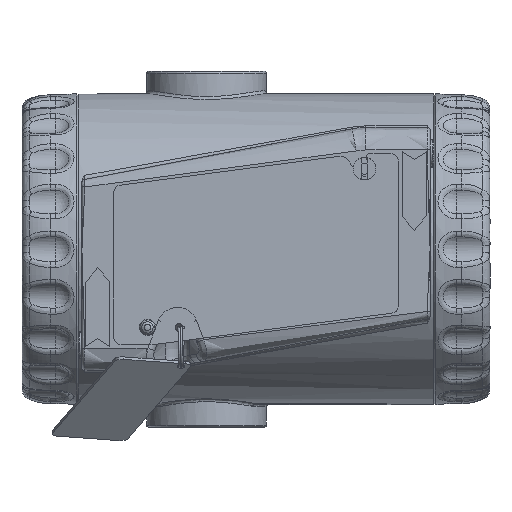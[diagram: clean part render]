
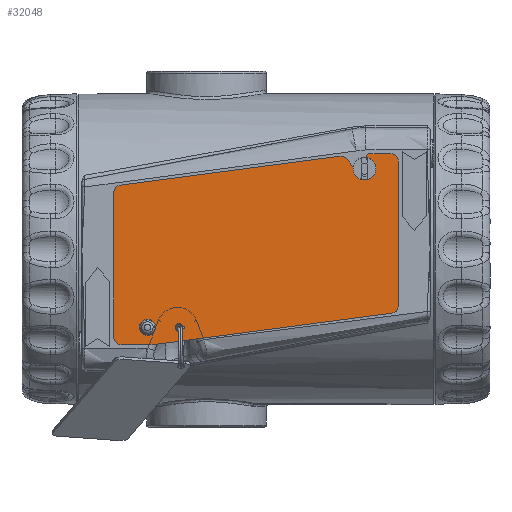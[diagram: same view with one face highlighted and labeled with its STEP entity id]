
A CAD part, left-side view. The second image highlights one B-rep face of the part: STEP entity #32048.
In plain terms, the highlighted planar face has unit normal (-1, 0, 0) as drawn and (0, 0, 1) by its records, which use the part's own axes.
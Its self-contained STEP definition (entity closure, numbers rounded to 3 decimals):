
#2493=FACE_BOUND('',#10472,.T.);
#2494=FACE_BOUND('',#10473,.T.);
#3020=PLANE('',#36159);
#4502=LINE('',#74795,#6025);
#4506=LINE('',#74807,#6029);
#4510=LINE('',#74819,#6033);
#4514=LINE('',#74831,#6037);
#4518=LINE('',#74843,#6041);
#4521=LINE('',#74849,#6044);
#4525=LINE('',#74861,#6048);
#4529=LINE('',#74872,#6052);
#6025=VECTOR('',#44805,10.);
#6029=VECTOR('',#44817,10.);
#6033=VECTOR('',#44829,10.);
#6037=VECTOR('',#44841,10.);
#6041=VECTOR('',#44853,10.);
#6044=VECTOR('',#44858,10.);
#6048=VECTOR('',#44870,10.);
#6052=VECTOR('',#44882,10.);
#8429=FACE_OUTER_BOUND('',#10471,.T.);
#10471=EDGE_LOOP('',(#29675,#29676,#29677,#29678,#29679,#29680,#29681,#29682,
#29683,#29684,#29685,#29686,#29687,#29688,#29689));
#10472=EDGE_LOOP('',(#29690));
#10473=EDGE_LOOP('',(#29691));
#12536=CIRCLE('',#36125,1.35);
#12538=CIRCLE('',#36128,1.);
#12539=CIRCLE('',#36130,2.);
#12541=CIRCLE('',#36134,2.);
#12543=CIRCLE('',#36138,1.);
#12545=CIRCLE('',#36142,2.);
#12547=CIRCLE('',#36146,2.);
#12549=CIRCLE('',#36151,2.);
#12551=CIRCLE('',#36155,2.);
#15451=VERTEX_POINT('',#74775);
#15453=VERTEX_POINT('',#74781);
#15454=VERTEX_POINT('',#74785);
#15455=VERTEX_POINT('',#74786);
#15458=VERTEX_POINT('',#74794);
#15460=VERTEX_POINT('',#74800);
#15462=VERTEX_POINT('',#74806);
#15464=VERTEX_POINT('',#74812);
#15466=VERTEX_POINT('',#74818);
#15468=VERTEX_POINT('',#74824);
#15470=VERTEX_POINT('',#74830);
#15472=VERTEX_POINT('',#74836);
#15474=VERTEX_POINT('',#74842);
#15476=VERTEX_POINT('',#74848);
#15478=VERTEX_POINT('',#74854);
#15480=VERTEX_POINT('',#74860);
#15482=VERTEX_POINT('',#74866);
#20183=EDGE_CURVE('',#15451,#15451,#12536,.T.);
#20186=EDGE_CURVE('',#15453,#15453,#12538,.T.);
#20187=EDGE_CURVE('',#15454,#15455,#12539,.T.);
#20191=EDGE_CURVE('',#15455,#15458,#4502,.T.);
#20194=EDGE_CURVE('',#15458,#15460,#12541,.T.);
#20197=EDGE_CURVE('',#15460,#15462,#4506,.T.);
#20200=EDGE_CURVE('',#15462,#15464,#12543,.T.);
#20203=EDGE_CURVE('',#15464,#15466,#4510,.T.);
#20206=EDGE_CURVE('',#15466,#15468,#12545,.T.);
#20209=EDGE_CURVE('',#15468,#15470,#4514,.T.);
#20212=EDGE_CURVE('',#15470,#15472,#12547,.T.);
#20215=EDGE_CURVE('',#15472,#15474,#4518,.T.);
#20218=EDGE_CURVE('',#15474,#15476,#4521,.T.);
#20221=EDGE_CURVE('',#15476,#15478,#12549,.T.);
#20224=EDGE_CURVE('',#15478,#15480,#4525,.T.);
#20227=EDGE_CURVE('',#15480,#15482,#12551,.T.);
#20230=EDGE_CURVE('',#15482,#15454,#4529,.T.);
#29675=ORIENTED_EDGE('',*,*,#20187,.F.);
#29676=ORIENTED_EDGE('',*,*,#20230,.F.);
#29677=ORIENTED_EDGE('',*,*,#20227,.F.);
#29678=ORIENTED_EDGE('',*,*,#20224,.F.);
#29679=ORIENTED_EDGE('',*,*,#20221,.F.);
#29680=ORIENTED_EDGE('',*,*,#20218,.F.);
#29681=ORIENTED_EDGE('',*,*,#20215,.F.);
#29682=ORIENTED_EDGE('',*,*,#20212,.F.);
#29683=ORIENTED_EDGE('',*,*,#20209,.F.);
#29684=ORIENTED_EDGE('',*,*,#20206,.F.);
#29685=ORIENTED_EDGE('',*,*,#20203,.F.);
#29686=ORIENTED_EDGE('',*,*,#20200,.F.);
#29687=ORIENTED_EDGE('',*,*,#20197,.F.);
#29688=ORIENTED_EDGE('',*,*,#20194,.F.);
#29689=ORIENTED_EDGE('',*,*,#20191,.F.);
#29690=ORIENTED_EDGE('',*,*,#20183,.T.);
#29691=ORIENTED_EDGE('',*,*,#20186,.T.);
#32048=ADVANCED_FACE('',(#8429,#2493,#2494),#3020,.T.);
#36125=AXIS2_PLACEMENT_3D('',#74777,#44786,#44787);
#36128=AXIS2_PLACEMENT_3D('',#74783,#44793,#44794);
#36130=AXIS2_PLACEMENT_3D('',#74787,#44797,#44798);
#36134=AXIS2_PLACEMENT_3D('',#74801,#44810,#44811);
#36138=AXIS2_PLACEMENT_3D('',#74813,#44822,#44823);
#36142=AXIS2_PLACEMENT_3D('',#74825,#44834,#44835);
#36146=AXIS2_PLACEMENT_3D('',#74837,#44846,#44847);
#36151=AXIS2_PLACEMENT_3D('',#74855,#44863,#44864);
#36155=AXIS2_PLACEMENT_3D('',#74867,#44875,#44876);
#36159=AXIS2_PLACEMENT_3D('',#74875,#44886,#44887);
#44786=DIRECTION('center_axis',(0.,0.,-1.));
#44787=DIRECTION('ref_axis',(-1.,0.,0.));
#44793=DIRECTION('center_axis',(0.,0.,-1.));
#44794=DIRECTION('ref_axis',(-1.,0.,0.));
#44797=DIRECTION('center_axis',(0.,0.,-1.));
#44798=DIRECTION('ref_axis',(0.766,0.643,0.));
#44805=DIRECTION('',(0.643,-0.766,0.));
#44810=DIRECTION('center_axis',(0.,0.,1.));
#44811=DIRECTION('ref_axis',(0.766,0.643,0.));
#44817=DIRECTION('',(-0.643,0.766,0.));
#44822=DIRECTION('center_axis',(0.,0.,-1.));
#44823=DIRECTION('ref_axis',(0.,1.,0.));
#44829=DIRECTION('',(1.,0.,0.));
#44834=DIRECTION('center_axis',(0.,0.,-1.));
#44835=DIRECTION('ref_axis',(1.,0.,0.));
#44841=DIRECTION('',(0.,-1.,0.));
#44846=DIRECTION('center_axis',(0.,0.,-1.));
#44847=DIRECTION('ref_axis',(0.131,-0.991,0.));
#44853=DIRECTION('',(-0.991,-0.131,0.));
#44858=DIRECTION('',(-1.,0.,0.));
#44863=DIRECTION('center_axis',(0.,0.,-1.));
#44864=DIRECTION('ref_axis',(-1.,0.,0.));
#44870=DIRECTION('',(0.,1.,0.));
#44875=DIRECTION('center_axis',(0.,0.,-1.));
#44876=DIRECTION('ref_axis',(-0.131,0.991,0.));
#44882=DIRECTION('',(0.991,0.131,0.));
#44886=DIRECTION('center_axis',(0.,0.,1.));
#44887=DIRECTION('ref_axis',(1.,0.,0.));
#74775=CARTESIAN_POINT('',(10.35,4.599,0.7));
#74777=CARTESIAN_POINT('Origin',(9.,4.599,0.7));
#74781=CARTESIAN_POINT('',(18.4,4.599,0.7));
#74783=CARTESIAN_POINT('Origin',(17.4,4.599,0.7));
#74785=CARTESIAN_POINT('',(60.389,50.327,0.7));
#74786=CARTESIAN_POINT('',(62.182,49.63,0.7));
#74787=CARTESIAN_POINT('Origin',(60.65,48.344,0.7));
#74794=CARTESIAN_POINT('',(65.468,45.714,0.7));
#74795=CARTESIAN_POINT('',(65.468,45.714,0.7));
#74800=CARTESIAN_POINT('',(68.532,48.286,0.7));
#74801=CARTESIAN_POINT('Origin',(67.,47.,0.7));
#74806=CARTESIAN_POINT('',(67.633,49.357,0.7));
#74807=CARTESIAN_POINT('',(67.633,49.357,0.7));
#74812=CARTESIAN_POINT('',(68.399,51.,0.7));
#74813=CARTESIAN_POINT('Origin',(68.399,50.,0.7));
#74818=CARTESIAN_POINT('',(74.,51.,0.7));
#74819=CARTESIAN_POINT('',(74.,51.,0.7));
#74824=CARTESIAN_POINT('',(76.,49.,0.7));
#74825=CARTESIAN_POINT('Origin',(74.,49.,0.7));
#74830=CARTESIAN_POINT('',(76.,10.377,0.7));
#74831=CARTESIAN_POINT('',(76.,10.377,0.7));
#74836=CARTESIAN_POINT('',(74.261,8.394,0.7));
#74837=CARTESIAN_POINT('Origin',(74.,10.377,0.7));
#74842=CARTESIAN_POINT('',(10.5,0.,0.7));
#74843=CARTESIAN_POINT('',(10.5,0.,0.7));
#74848=CARTESIAN_POINT('',(2.,0.,0.7));
#74849=CARTESIAN_POINT('',(2.,0.,0.7));
#74854=CARTESIAN_POINT('',(0.,2.,0.7));
#74855=CARTESIAN_POINT('Origin',(2.,2.,0.7));
#74860=CARTESIAN_POINT('',(0.,40.623,0.7));
#74861=CARTESIAN_POINT('',(0.,40.623,0.7));
#74866=CARTESIAN_POINT('',(1.739,42.606,0.7));
#74867=CARTESIAN_POINT('Origin',(2.,40.623,0.7));
#74872=CARTESIAN_POINT('',(60.389,50.327,0.7));
#74875=CARTESIAN_POINT('Origin',(39.077,26.228,0.7));
